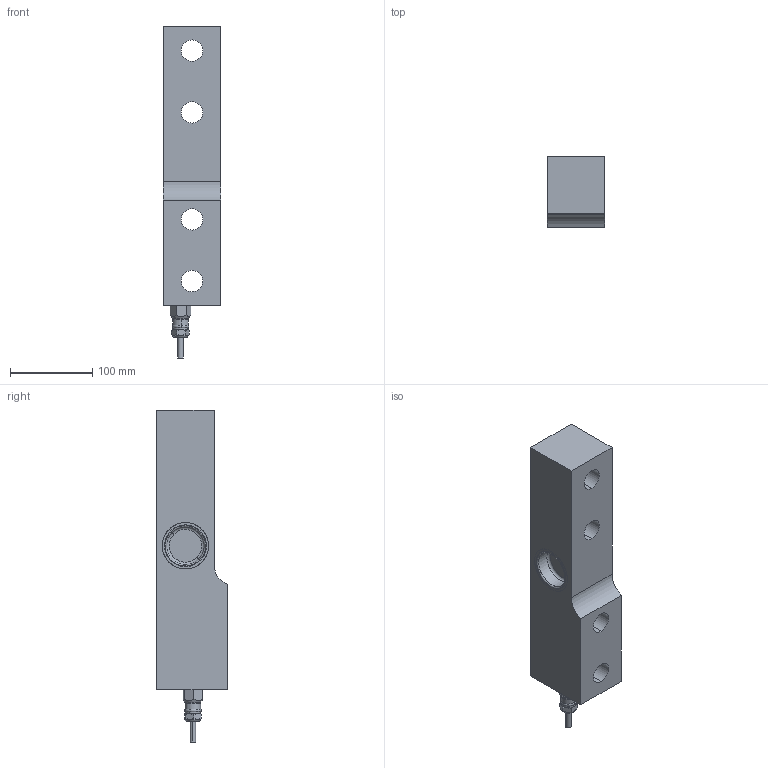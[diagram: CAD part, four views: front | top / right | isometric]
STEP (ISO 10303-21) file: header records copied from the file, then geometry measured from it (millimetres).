
FILE_DESCRIPTION (( 'STEP AP214' ), '1' );
FILE_NAME ('SSB7 Assembly - WEB.STEP', '2025-03-06T04:21:16', ( '' ), ( '' ), 'SwSTEP 2.0', 'SolidWorks 2023', '' );
FILE_SCHEMA (( 'AUTOMOTIVE_DESIGN' ));
Length unit declared in the file: millimetre
Products named in the file (9): cable_1.STEP; 0005556_1.STEP; 0079791_1.STEP; 0006697_1.STEP; 0121288_1.STEP; 0006798_1.STEP; SSB7 Assembly - WEB; SSB7 Assembly.STEP; 0080158_1.STEP
Assembly tree (9 placements, depth 3):
  SSB7 Assembly - WEB
    SSB7 Assembly.STEP
      0121288_1.STEP
      0079791_1.STEP  x2
      0006697_1.STEP
      0005556_1.STEP
      0080158_1.STEP
      0006798_1.STEP
      cable_1.STEP
Bounding box: 70 x 86 x 403.48 mm (x, y, z)
Volume: 1509348.6 mm3; surface area: 172882.9 mm2
Topology: 8 solids, 8 shells, 827 faces, 2136 edges, 1407 vertices
Faces by surface type: plane 328, bspline 313, cylinder 127, torus 36, cone 23
Entity records: 40691 total; most frequent: CARTESIAN_POINT 23253, ORIENTED_EDGE 4204, DIRECTION 2477, EDGE_CURVE 2102, VERTEX_POINT 1387, EDGE_LOOP 909, LINE 833, VECTOR 833
